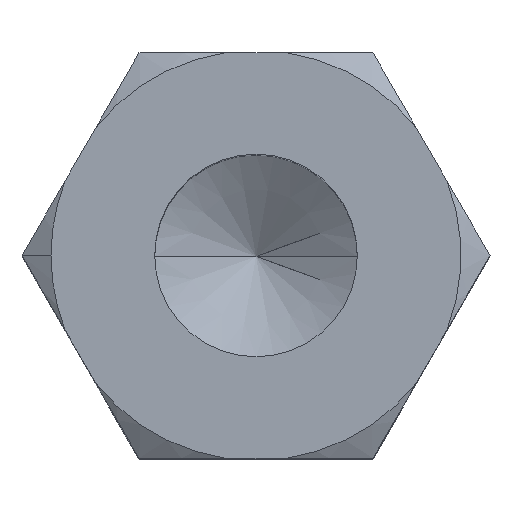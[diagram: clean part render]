
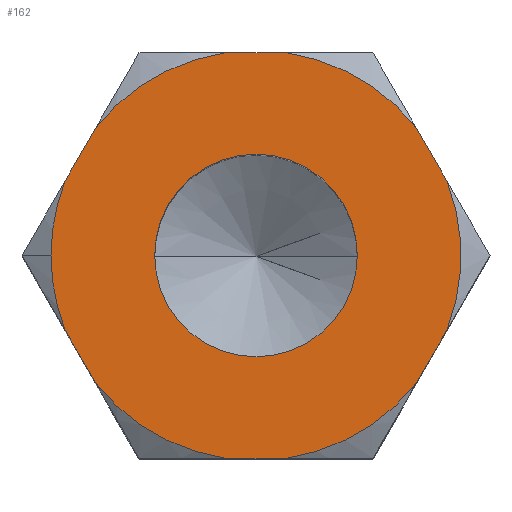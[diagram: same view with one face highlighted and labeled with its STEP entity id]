
A CAD part, top view. The second image highlights one B-rep face of the part: STEP entity #162.
In plain terms, the highlighted planar face has unit normal (0, 0, 1).
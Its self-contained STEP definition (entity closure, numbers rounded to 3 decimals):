
#11 = VERTEX_POINT ( 'NONE', #647 ) ;
#15 = CIRCLE ( 'NONE', #427, 8.6 ) ;
#20 = EDGE_CURVE ( 'NONE', #244, #737, #736, .T. ) ;
#38 = ORIENTED_EDGE ( 'NONE', *, *, #516, .F. ) ;
#39 = DIRECTION ( 'NONE',  ( -1., 0., 0. ) ) ;
#41 = EDGE_CURVE ( 'NONE', #863, #521, #343, .T. ) ;
#70 = AXIS2_PLACEMENT_3D ( 'NONE', #607, #900, #132 ) ;
#81 = CARTESIAN_POINT ( 'NONE',  ( 1.308, -8.5, 0. ) ) ;
#82 = AXIS2_PLACEMENT_3D ( 'NONE', #675, #603, #182 ) ;
#84 = FACE_OUTER_BOUND ( 'NONE', #89, .T. ) ;
#89 = EDGE_LOOP ( 'NONE', ( #205, #584, #220, #38, #862, #253, #267, #596, #390, #696, #322, #874, #299 ) ) ;
#94 = CARTESIAN_POINT ( 'NONE',  ( 0., -8.5, 0. ) ) ;
#113 = DIRECTION ( 'NONE',  ( -1., 0., 0. ) ) ;
#114 = VECTOR ( 'NONE', #203, 1000. ) ;
#119 = CARTESIAN_POINT ( 'NONE',  ( 7.361, -4.25, 0. ) ) ;
#127 = EDGE_CURVE ( 'NONE', #676, #279, #410, .T. ) ;
#128 = CARTESIAN_POINT ( 'NONE',  ( 0., 0., 0. ) ) ;
#132 = DIRECTION ( 'NONE',  ( 1., 0., 0. ) ) ;
#141 = EDGE_CURVE ( 'NONE', #11, #555, #383, .T. ) ;
#157 = DIRECTION ( 'NONE',  ( -1., 0., 0. ) ) ;
#162 = ADVANCED_FACE ( 'NONE', ( #179, #84 ), #877, .T. ) ;
#174 = VECTOR ( 'NONE', #113, 1000. ) ;
#179 = FACE_BOUND ( 'NONE', #687, .T. ) ;
#182 = DIRECTION ( 'NONE',  ( 1., 0., 0. ) ) ;
#191 = DIRECTION ( 'NONE',  ( -1., 0., 0. ) ) ;
#203 = DIRECTION ( 'NONE',  ( 0.5, -0.866, 0. ) ) ;
#205 = ORIENTED_EDGE ( 'NONE', *, *, #714, .T. ) ;
#218 = VECTOR ( 'NONE', #659, 1000. ) ;
#220 = ORIENTED_EDGE ( 'NONE', *, *, #766, .T. ) ;
#224 = LINE ( 'NONE', #610, #174 ) ;
#226 = DIRECTION ( 'NONE',  ( 0., 0., -1. ) ) ;
#229 = DIRECTION ( 'NONE',  ( -1., 0., 0. ) ) ;
#233 = EDGE_CURVE ( 'NONE', #279, #676, #247, .T. ) ;
#244 = VERTEX_POINT ( 'NONE', #685 ) ;
#246 = CARTESIAN_POINT ( 'NONE',  ( 6.707, 5.382, 0. ) ) ;
#247 = CIRCLE ( 'NONE', #70, 4.25 ) ;
#248 = AXIS2_PLACEMENT_3D ( 'NONE', #605, #667, #886 ) ;
#253 = ORIENTED_EDGE ( 'NONE', *, *, #699, .F. ) ;
#267 = ORIENTED_EDGE ( 'NONE', *, *, #141, .F. ) ;
#279 = VERTEX_POINT ( 'NONE', #548 ) ;
#292 = CARTESIAN_POINT ( 'NONE',  ( -6.707, -5.382, 0. ) ) ;
#299 = ORIENTED_EDGE ( 'NONE', *, *, #777, .F. ) ;
#300 = ORIENTED_EDGE ( 'NONE', *, *, #127, .F. ) ;
#302 = CARTESIAN_POINT ( 'NONE',  ( -4.25, 0., 0. ) ) ;
#313 = DIRECTION ( 'NONE',  ( -1., 0., 0. ) ) ;
#320 = CARTESIAN_POINT ( 'NONE',  ( 0., 0., 0. ) ) ;
#322 = ORIENTED_EDGE ( 'NONE', *, *, #370, .F. ) ;
#328 = CARTESIAN_POINT ( 'NONE',  ( -7.361, 4.25, 0. ) ) ;
#331 = AXIS2_PLACEMENT_3D ( 'NONE', #644, #226, #157 ) ;
#343 = LINE ( 'NONE', #94, #218 ) ;
#344 = CARTESIAN_POINT ( 'NONE',  ( -7.361, -4.25, 0. ) ) ;
#355 = VERTEX_POINT ( 'NONE', #494 ) ;
#356 = CARTESIAN_POINT ( 'NONE',  ( -8.6, 0., 0. ) ) ;
#363 = AXIS2_PLACEMENT_3D ( 'NONE', #320, #458, #39 ) ;
#368 = LINE ( 'NONE', #328, #668 ) ;
#370 = EDGE_CURVE ( 'NONE', #471, #521, #881, .T. ) ;
#382 = DIRECTION ( 'NONE',  ( 0., 0., -1. ) ) ;
#383 = CIRCLE ( 'NONE', #363, 8.6 ) ;
#390 = ORIENTED_EDGE ( 'NONE', *, *, #617, .F. ) ;
#391 = VERTEX_POINT ( 'NONE', #634 ) ;
#410 = CIRCLE ( 'NONE', #82, 4.25 ) ;
#414 = VERTEX_POINT ( 'NONE', #839 ) ;
#427 = AXIS2_PLACEMENT_3D ( 'NONE', #866, #662, #313 ) ;
#446 = ORIENTED_EDGE ( 'NONE', *, *, #233, .F. ) ;
#455 = LINE ( 'NONE', #604, #799 ) ;
#458 = DIRECTION ( 'NONE',  ( 0., 0., -1. ) ) ;
#466 = DIRECTION ( 'NONE',  ( -0.5, -0.866, 0. ) ) ;
#471 = VERTEX_POINT ( 'NONE', #506 ) ;
#478 = AXIS2_PLACEMENT_3D ( 'NONE', #721, #587, #229 ) ;
#485 = LINE ( 'NONE', #119, #566 ) ;
#486 = CARTESIAN_POINT ( 'NONE',  ( -1.308, -8.5, 0. ) ) ;
#494 = CARTESIAN_POINT ( 'NONE',  ( -1.308, 8.5, 0. ) ) ;
#501 = VERTEX_POINT ( 'NONE', #510 ) ;
#503 = CIRCLE ( 'NONE', #646, 8.6 ) ;
#506 = CARTESIAN_POINT ( 'NONE',  ( 6.707, -5.382, 0. ) ) ;
#510 = CARTESIAN_POINT ( 'NONE',  ( -8.015, 3.118, 0. ) ) ;
#516 = EDGE_CURVE ( 'NONE', #414, #355, #786, .T. ) ;
#520 = DIRECTION ( 'NONE',  ( 0., 0., -1. ) ) ;
#521 = VERTEX_POINT ( 'NONE', #81 ) ;
#548 = CARTESIAN_POINT ( 'NONE',  ( 4.25, 0., 0. ) ) ;
#553 = VERTEX_POINT ( 'NONE', #292 ) ;
#555 = VERTEX_POINT ( 'NONE', #356 ) ;
#556 = LINE ( 'NONE', #344, #114 ) ;
#566 = VECTOR ( 'NONE', #595, 1000. ) ;
#584 = ORIENTED_EDGE ( 'NONE', *, *, #20, .F. ) ;
#585 = DIRECTION ( 'NONE',  ( -1., 0., 0. ) ) ;
#587 = DIRECTION ( 'NONE',  ( 0., 0., -1. ) ) ;
#593 = AXIS2_PLACEMENT_3D ( 'NONE', #128, #382, #191 ) ;
#595 = DIRECTION ( 'NONE',  ( 0.5, 0.866, 0. ) ) ;
#596 = ORIENTED_EDGE ( 'NONE', *, *, #860, .T. ) ;
#603 = DIRECTION ( 'NONE',  ( 0., 0., 1. ) ) ;
#604 = CARTESIAN_POINT ( 'NONE',  ( 7.361, 4.25, 0. ) ) ;
#605 = CARTESIAN_POINT ( 'NONE',  ( 0., 0., 0. ) ) ;
#607 = CARTESIAN_POINT ( 'NONE',  ( 0., 0., 0. ) ) ;
#610 = CARTESIAN_POINT ( 'NONE',  ( 0., 8.5, 0. ) ) ;
#617 = EDGE_CURVE ( 'NONE', #863, #553, #15, .T. ) ;
#634 = CARTESIAN_POINT ( 'NONE',  ( 8.015, 3.118, 0. ) ) ;
#637 = DIRECTION ( 'NONE',  ( -1., 0., 0. ) ) ;
#644 = CARTESIAN_POINT ( 'NONE',  ( 0., 0., 0. ) ) ;
#646 = AXIS2_PLACEMENT_3D ( 'NONE', #731, #520, #585 ) ;
#647 = CARTESIAN_POINT ( 'NONE',  ( -8.015, -3.118, 0. ) ) ;
#659 = DIRECTION ( 'NONE',  ( 1., 0., 0. ) ) ;
#662 = DIRECTION ( 'NONE',  ( 0., 0., -1. ) ) ;
#667 = DIRECTION ( 'NONE',  ( 0., 0., 1. ) ) ;
#668 = VECTOR ( 'NONE', #466, 1000. ) ;
#672 = CARTESIAN_POINT ( 'NONE',  ( 8.015, -3.118, 0. ) ) ;
#675 = CARTESIAN_POINT ( 'NONE',  ( 0., 0., 0. ) ) ;
#676 = VERTEX_POINT ( 'NONE', #302 ) ;
#685 = CARTESIAN_POINT ( 'NONE',  ( 1.308, 8.5, 0. ) ) ;
#687 = EDGE_LOOP ( 'NONE', ( #446, #300 ) ) ;
#696 = ORIENTED_EDGE ( 'NONE', *, *, #41, .T. ) ;
#699 = EDGE_CURVE ( 'NONE', #555, #501, #503, .T. ) ;
#714 = EDGE_CURVE ( 'NONE', #391, #737, #455, .T. ) ;
#718 = VERTEX_POINT ( 'NONE', #672 ) ;
#721 = CARTESIAN_POINT ( 'NONE',  ( 0., 0., 0. ) ) ;
#731 = CARTESIAN_POINT ( 'NONE',  ( 0., 0., 0. ) ) ;
#736 = CIRCLE ( 'NONE', #478, 8.6 ) ;
#737 = VERTEX_POINT ( 'NONE', #246 ) ;
#741 = CIRCLE ( 'NONE', #593, 8.6 ) ;
#757 = EDGE_CURVE ( 'NONE', #471, #718, #485, .T. ) ;
#766 = EDGE_CURVE ( 'NONE', #244, #355, #224, .T. ) ;
#777 = EDGE_CURVE ( 'NONE', #391, #718, #741, .T. ) ;
#786 = CIRCLE ( 'NONE', #331, 8.6 ) ;
#792 = EDGE_CURVE ( 'NONE', #414, #501, #368, .T. ) ;
#799 = VECTOR ( 'NONE', #889, 1000. ) ;
#839 = CARTESIAN_POINT ( 'NONE',  ( -6.707, 5.382, 0. ) ) ;
#860 = EDGE_CURVE ( 'NONE', #11, #553, #556, .T. ) ;
#862 = ORIENTED_EDGE ( 'NONE', *, *, #792, .T. ) ;
#863 = VERTEX_POINT ( 'NONE', #486 ) ;
#866 = CARTESIAN_POINT ( 'NONE',  ( 0., 0., 0. ) ) ;
#874 = ORIENTED_EDGE ( 'NONE', *, *, #757, .T. ) ;
#877 = PLANE ( 'NONE',  #248 ) ;
#881 = CIRCLE ( 'NONE', #914, 8.6 ) ;
#886 = DIRECTION ( 'NONE',  ( 1., 0., 0. ) ) ;
#889 = DIRECTION ( 'NONE',  ( -0.5, 0.866, 0. ) ) ;
#900 = DIRECTION ( 'NONE',  ( 0., 0., 1. ) ) ;
#905 = CARTESIAN_POINT ( 'NONE',  ( 0., 0., 0. ) ) ;
#912 = DIRECTION ( 'NONE',  ( 0., 0., -1. ) ) ;
#914 = AXIS2_PLACEMENT_3D ( 'NONE', #905, #912, #637 ) ;
